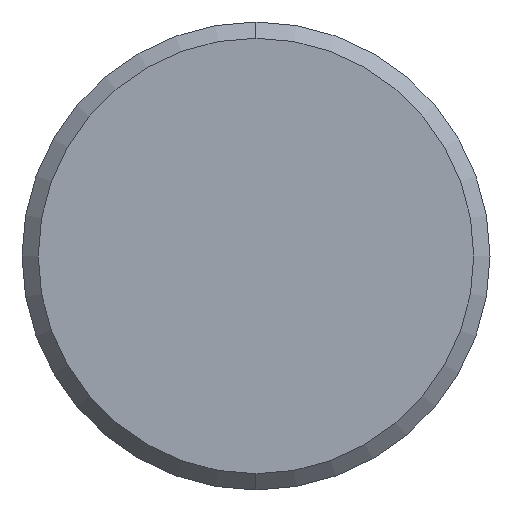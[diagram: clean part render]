
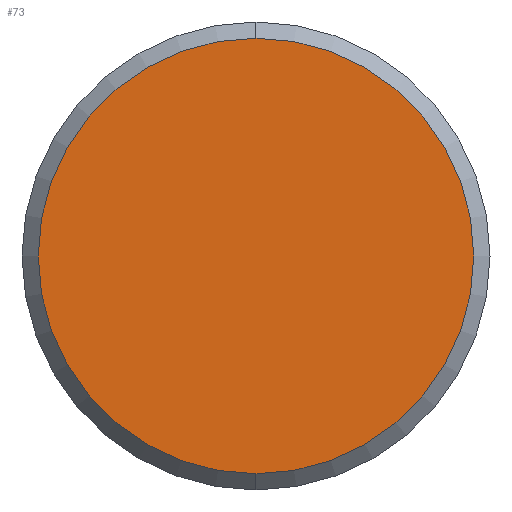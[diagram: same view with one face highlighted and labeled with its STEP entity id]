
A CAD part, left-side view. The second image highlights one B-rep face of the part: STEP entity #73.
In plain terms, the highlighted planar face has unit normal (-1, 0, 0).
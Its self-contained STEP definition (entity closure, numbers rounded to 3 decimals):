
#6 = VERTEX_POINT ( 'NONE', #391 ) ;
#70 = CIRCLE ( 'NONE', #271, 14.775 ) ;
#73 = ADVANCED_FACE ( 'NONE', ( #146 ), #352, .F. ) ;
#83 = EDGE_CURVE ( 'NONE', #6, #199, #70, .T. ) ;
#142 = ORIENTED_EDGE ( 'NONE', *, *, #345, .T. ) ;
#146 = FACE_OUTER_BOUND ( 'NONE', #377, .T. ) ;
#150 = DIRECTION ( 'NONE',  ( 1., 0., 0. ) ) ;
#177 = DIRECTION ( 'NONE',  ( -1., 0., 0. ) ) ;
#199 = VERTEX_POINT ( 'NONE', #440 ) ;
#210 = CARTESIAN_POINT ( 'NONE',  ( -298.4, 15.875, 0. ) ) ;
#257 = CARTESIAN_POINT ( 'NONE',  ( -298.4, 0., 0. ) ) ;
#271 = AXIS2_PLACEMENT_3D ( 'NONE', #425, #177, #384 ) ;
#293 = AXIS2_PLACEMENT_3D ( 'NONE', #210, #150, #350 ) ;
#345 = EDGE_CURVE ( 'NONE', #199, #6, #399, .T. ) ;
#350 = DIRECTION ( 'NONE',  ( 0., 0., -1. ) ) ;
#352 = PLANE ( 'NONE',  #293 ) ;
#377 = EDGE_LOOP ( 'NONE', ( #142, #443 ) ) ;
#384 = DIRECTION ( 'NONE',  ( 0., 0., -1. ) ) ;
#391 = CARTESIAN_POINT ( 'NONE',  ( -298.4, 0., 14.775 ) ) ;
#399 = CIRCLE ( 'NONE', #450, 14.775 ) ;
#425 = CARTESIAN_POINT ( 'NONE',  ( -298.4, 0., 0. ) ) ;
#433 = DIRECTION ( 'NONE',  ( 0., 0., -1. ) ) ;
#440 = CARTESIAN_POINT ( 'NONE',  ( -298.4, 0., -14.775 ) ) ;
#441 = DIRECTION ( 'NONE',  ( -1., 0., 0. ) ) ;
#443 = ORIENTED_EDGE ( 'NONE', *, *, #83, .T. ) ;
#450 = AXIS2_PLACEMENT_3D ( 'NONE', #257, #441, #433 ) ;
